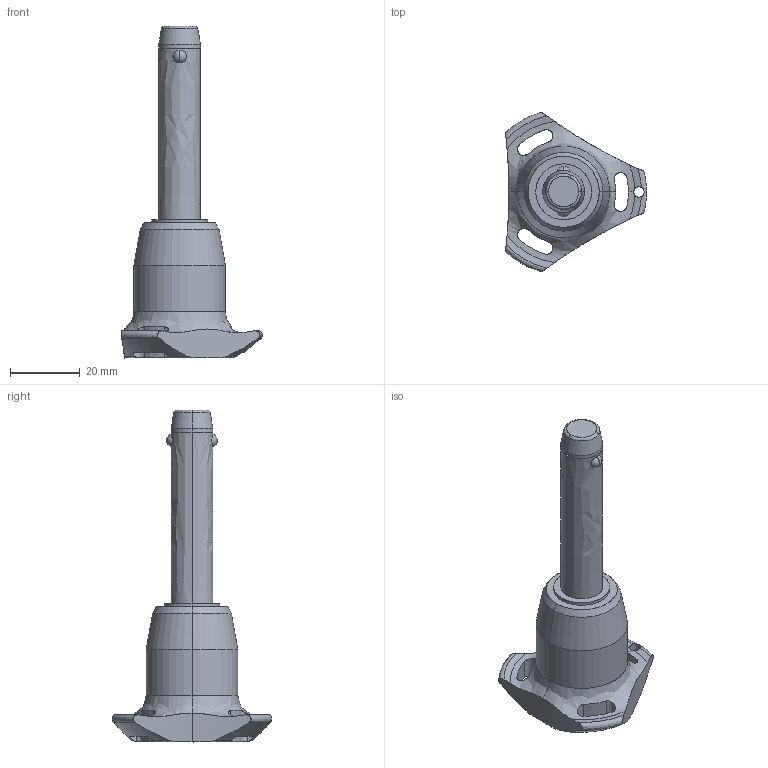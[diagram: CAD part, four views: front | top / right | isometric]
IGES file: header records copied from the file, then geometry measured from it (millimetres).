
Start section: SolidWorks IGES file using analytic representation for surfaces
Global section: file name: C:\Users\ianosborn\Desktop\QR1716_v2\QR1716_v2_20251114_IGES\QR1716.M12-045-T.igs; native system: SolidWorks 2019; preprocessor: SolidWorks 2019; author: IanOsborn; date: 251113.103629; units: millimetre
Bounding box: 40.5 x 45.88 x 95.3 mm (x, y, z)
Surface area: 8034.3 mm2 (no closed solid volume)
Topology: 0 solids, 0 shells, 68 faces, 1435 edges, 1431 vertices
Faces by surface type: revolution 52, bspline 16
